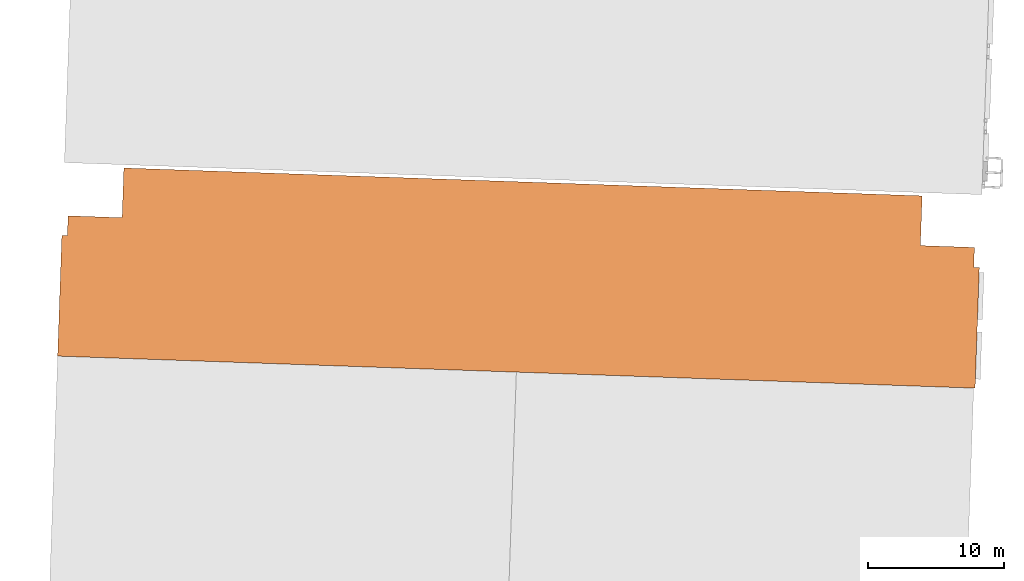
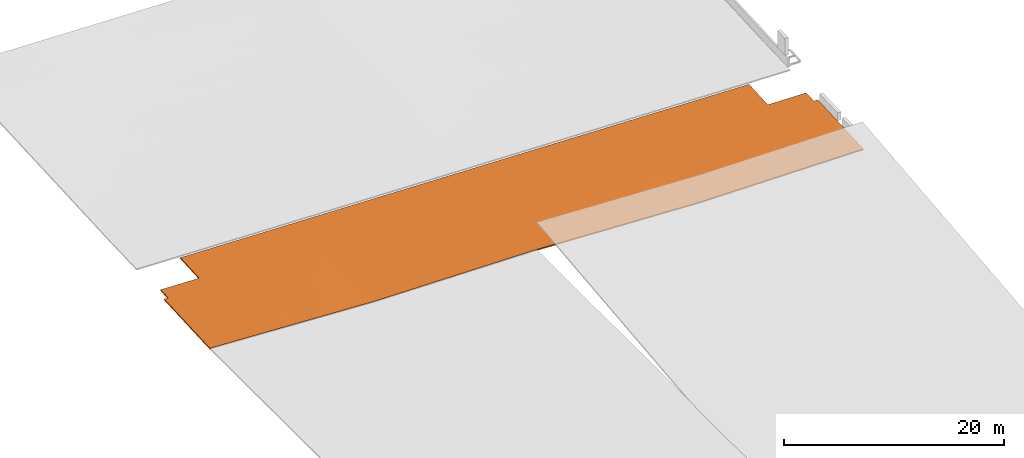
# One storey, part 4 of 4: 1 proxy.
"""IFC2X3 building model written with IfcOpenShell, lengths in feet."""

from ifc_helpers import new_model, entity, si_unit, converted_unit, derived_unit, direction, frame, origin, place, context, subcontext, project, spatial, faceted_brep, source, transform, mapped, material, type_object, type_shapes, element, save


model = new_model("IFC2X3")

# Units and contexts
model_context = context("Model", 3, precision=0.0001, world=origin(), true_north=direction((0.999390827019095, 0.0348994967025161)))
body_context = subcontext(model_context, "Body", "Model", "MODEL_VIEW")
ifc_project = project(units=[converted_unit("LENGTHUNIT", "FOOT", entity("IfcRatioMeasure", 0.3048), si_unit("LENGTHUNIT", "METRE"), dimensions=[1, 0, 0, 0, 0, 0, 0]), converted_unit("AREAUNIT", "SQUARE FOOT", entity("IfcRatioMeasure", 0.09290304), si_unit("AREAUNIT", "SQUARE_METRE"), dimensions=[2, 0, 0, 0, 0, 0, 0]), converted_unit("VOLUMEUNIT", "CUBIC FOOT", entity("IfcRatioMeasure", 0.028316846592), si_unit("VOLUMEUNIT", "CUBIC_METRE"), dimensions=[3, 0, 0, 0, 0, 0, 0]), converted_unit("PLANEANGLEUNIT", "DEGREE", entity("IfcRatioMeasure", 0.0174532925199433), si_unit("PLANEANGLEUNIT", "RADIAN"), dimensions=[0, 0, 0, 0, 0, 0, 0]), si_unit("MASSUNIT", "GRAM", prefix="KILO"), si_unit("TIMEUNIT", "SECOND"), si_unit("FREQUENCYUNIT", "HERTZ"), si_unit("THERMODYNAMICTEMPERATUREUNIT", "DEGREE_CELSIUS"), derived_unit("THERMALTRANSMITTANCEUNIT", [(si_unit("MASSUNIT", "GRAM", prefix="KILO"), 1), (si_unit("THERMODYNAMICTEMPERATUREUNIT", "KELVIN"), -1), (si_unit("TIMEUNIT", "SECOND"), -3)]), derived_unit("VOLUMETRICFLOWRATEUNIT", [(si_unit("LENGTHUNIT", "METRE"), 3), (si_unit("TIMEUNIT", "SECOND"), -1)]), si_unit("ELECTRICCURRENTUNIT", "AMPERE"), si_unit("ELECTRICVOLTAGEUNIT", "VOLT"), si_unit("POWERUNIT", "WATT"), si_unit("FORCEUNIT", "NEWTON"), si_unit("ILLUMINANCEUNIT", "LUX"), si_unit("LUMINOUSFLUXUNIT", "LUMEN"), si_unit("LUMINOUSINTENSITYUNIT", "CANDELA"), derived_unit("USERDEFINED", [(si_unit("MASSUNIT", "GRAM", prefix="KILO"), -1), (si_unit("LENGTHUNIT", "METRE"), -2), (si_unit("TIMEUNIT", "SECOND"), 3), (si_unit("LUMINOUSFLUXUNIT", "LUMEN"), 1)]), derived_unit("LINEARVELOCITYUNIT", [(si_unit("LENGTHUNIT", "METRE"), 1), (si_unit("TIMEUNIT", "SECOND"), -1)]), si_unit("PRESSUREUNIT", "PASCAL"), derived_unit("USERDEFINED", [(si_unit("LENGTHUNIT", "METRE"), -2), (si_unit("MASSUNIT", "GRAM", prefix="KILO"), 1), (si_unit("TIMEUNIT", "SECOND"), -2)])], contexts=[model_context])

# Site, building, storey
site_placement = place(None, frame((892.518771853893, 322.38689265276, 0.00393700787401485), z_axis=(0.0, 0.0, 1.0), x_axis=(0.0348994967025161, 0.999390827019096, 0.0)))
site = spatial("IfcSite", under=ifc_project, at=site_placement, Name="Default", CompositionType="ELEMENT")
building_placement = place(site_placement, origin())
building = spatial("IfcBuilding", under=site, at=building_placement, CompositionType="ELEMENT")
storey_placement = place(building_placement, frame((0.0, 0.0, 577.0)))
storey = spatial("IfcBuildingStorey", under=building, at=storey_placement, Name="Existing Garage - 3rd Level", CompositionType="ELEMENT", Elevation=577.0)

# Proxy
ifc_material = material(Name="Conc Slab")
building_element_proxy_type = type_object("IfcBuildingElementProxyType", Name="URMC Exist Garage A15-G18 2nd Floor", PredefinedType="NOTDEFINED", material=ifc_material)
shared_shape = source(origin(), body_context, "Body", "Brep", [
    faceted_brep([(45.7500000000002, -165.0, -0.416666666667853), (45.0, -165.0, -0.416666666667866), (42.0623199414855, -165.0, -0.493046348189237), (37.5, -165.0, -0.611666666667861), (32.9376800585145, -165.0, -0.730286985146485), (30.0, -165.0, -0.806666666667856), (21.6913902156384, -165.0, -1.02269052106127), (13.3827804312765, -165.0, -1.23871437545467), (0.0, -165.0, -1.58666666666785), (0.0, -165.0, -1.17000000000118), (13.3827804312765, -165.0, -0.822047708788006), (21.6913902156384, -165.0, -0.606023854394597), (30.0, -165.0, -0.390000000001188), (37.4999999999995, -165.0, -0.195000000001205), (45.0, -165.0, 0.0), (45.7500000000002, -165.0, 0.0), (29.0, -220.0, -0.416666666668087), (29.0, -220.0, 0.0), (20.6913898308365, -220.0, 0.0), (12.3827796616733, -220.0, 0.0), (0.0, -220.0, 0.0), (0.0, -220.0, -0.416666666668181), (12.3827796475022, -220.0, -0.416666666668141), (20.691389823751, -220.0, -0.416666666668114), (30.0, -208.845032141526, -0.0790988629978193), (16.5370843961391, -203.597118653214, -0.220703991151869), (29.2499999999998, -219.0, -0.00744545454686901), (29.4999999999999, -219.0, -0.00732727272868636), (29.75, -219.0, -0.0072090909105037), (30.0, -219.0, -0.00709090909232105), (30.4212962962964, -219.0, -0.0068917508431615), (30.8425925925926, -219.0, -0.00669259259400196), (30.0, -205.5, -0.102818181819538), (29.0, -219.0, -0.00756363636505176), (29.0, -219.75, -0.00189090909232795), (29.0, -219.5, -0.00378181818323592), (29.0, -219.25, -0.00567272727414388), (20.7948761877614, -191.005404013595, -0.331768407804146), (30.0, -198.690064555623, -0.151106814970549), (10.0378252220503, -178.448943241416, -0.686738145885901), (20.1935517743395, -178.613535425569, -0.485326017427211), (0.0, -209.845032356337, -0.21602385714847), (0.0, -199.690064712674, -0.432047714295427), (9.71466791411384, -192.499997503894, -0.458709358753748), (0.0, -185.309935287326, -0.737952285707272), (7.77446293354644, -204.767549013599, -0.268053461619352), (0.0, -175.154967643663, -0.953976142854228), (30.0, -192.0, -0.198545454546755), (30.0, -181.845032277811, -0.270553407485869), (30.0, -178.5, -0.294272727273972), (33.7916666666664, -211.777777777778, -0.0435653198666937), (33.7916666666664, -213.222222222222, -0.0359119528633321), (31.2638888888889, -219.0, -0.00649343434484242), (31.6851851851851, -219.0, -0.00629427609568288), (32.1064814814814, -219.0, -0.00609511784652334), (32.5277777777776, -219.0, -0.0058959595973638), (32.9490740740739, -219.0, -0.00569680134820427), (33.3703703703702, -219.0, -0.00549764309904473), (33.7916666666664, -219.0, -0.0052984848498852), (33.7916666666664, -217.555555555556, -0.0129518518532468), (33.7916666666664, -216.111111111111, -0.0206052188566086), (33.7916666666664, -214.666666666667, -0.0282585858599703), (38.4839962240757, -175.781774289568, -0.136205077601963), (34.4211543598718, -180.619101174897, -0.196940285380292), (38.1504626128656, -186.798467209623, -0.107505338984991), (45.0, -177.276017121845, 0.0), (34.313381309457, -191.629013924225, -0.143326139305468), (38.1504626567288, -196.459562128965, -0.0762230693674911), (33.7916666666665, -206.0, -0.0741787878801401), (35.0370370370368, -206.0, -0.0659367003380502), (33.7916666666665, -207.444444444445, -0.0665254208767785), (33.7916666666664, -210.333333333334, -0.0512186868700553), (33.7916666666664, -208.888888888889, -0.058872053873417), (45.0, -191.638008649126, 0.0), (43.7546296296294, -206.0, -0.00824208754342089), (45.0, -206.0, 0.0), (42.5092592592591, -206.0, -0.0164841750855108), (41.2638888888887, -206.0, -0.0247262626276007), (36.2824074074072, -206.0, -0.0576946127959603), (37.5277777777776, -206.0, -0.0494525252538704), (38.7731481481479, -206.0, -0.0412104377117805), (40.0185185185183, -206.0, -0.0329683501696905), (45.7500000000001, -206.0, 0.0), (45.7500000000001, -206.0, -0.416666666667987), (45.0, -206.0, -0.416666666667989), (45.0, -191.638008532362, -0.416666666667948), (45.0, -177.276017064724, -0.416666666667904), (33.7916666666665, -207.444444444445, -0.483192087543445), (33.7916666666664, -208.888888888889, -0.475538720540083), (33.7916666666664, -210.333333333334, -0.467885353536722), (33.7916666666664, -211.777777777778, -0.46023198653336), (30.0, -205.499999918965, -0.519484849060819), (33.7916666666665, -206.0, -0.490845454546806), (37.0103240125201, -176.044531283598, -0.582683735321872), (33.8430920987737, -184.011589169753, -0.606475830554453), (30.0, -178.500000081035, -0.710939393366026), (34.7918977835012, -194.653484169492, -0.538980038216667), (30.0, -198.690064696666, -0.567773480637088), (30.0, -192.0, -0.615212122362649), (40.0185185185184, -206.0, -0.449635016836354), (38.773148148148, -206.0, -0.457877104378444), (37.5277777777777, -206.0, -0.466119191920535), (36.2824074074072, -206.0, -0.474361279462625), (39.3958345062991, -196.218239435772, -0.479670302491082), (42.5092592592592, -206.0, -0.433150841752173), (41.2638888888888, -206.0, -0.441392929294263), (38.1504606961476, -186.798464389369, -0.524172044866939), (30.0, -181.845032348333, -0.687220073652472), (30.8425925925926, -219.0, -0.423359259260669), (43.7546296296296, -206.0, -0.424908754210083), (40.93720002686, -179.294944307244, -0.494844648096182), (35.0370370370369, -206.0, -0.482603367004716), (33.7916666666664, -214.666666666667, -0.444925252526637), (33.7916666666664, -216.111111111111, -0.437271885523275), (33.7916666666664, -217.555555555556, -0.429618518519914), (33.7916666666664, -219.0, -0.421965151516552), (33.3703703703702, -219.0, -0.422164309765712), (32.9490740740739, -219.0, -0.422363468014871), (32.5277777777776, -219.0, -0.422562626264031), (32.1064814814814, -219.0, -0.42276178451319), (31.6851851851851, -219.0, -0.42296094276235), (31.2638888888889, -219.0, -0.423160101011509), (33.7916666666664, -213.222222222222, -0.452578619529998), (30.4212962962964, -219.0, -0.423558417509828), (30.0, -219.0, -0.423757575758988), (29.75, -219.0, -0.423875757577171), (29.4999999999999, -219.0, -0.423993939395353), (29.2499999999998, -219.0, -0.424112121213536), (29.0, -219.0, -0.424230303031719), (30.0, -208.845032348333, -0.495765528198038), (0.0, -185.309935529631, -1.15461894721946), (9.71466872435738, -192.499996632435, -0.875376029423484), (0.0, -199.690064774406, -0.848714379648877), (10.0378253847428, -178.44894299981, -1.10340481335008), (29.0, -219.5, -0.420448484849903), (29.0, -219.75, -0.418557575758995), (29.0, -219.25, -0.422339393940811), (16.5370867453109, -203.597117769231, -0.637370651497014), (7.77446308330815, -204.767549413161, -0.684720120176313), (0.0, -209.845032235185, -0.632690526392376), (20.7948767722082, -191.005405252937, -0.748435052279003), (20.1935519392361, -178.613536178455, -0.901992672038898), (0.0, -175.154967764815, -1.37064280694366)], [[[0, 1, 2, 3, 4, 5, 6, 7, 8, 9, 10, 11, 12, 13, 14, 15]], [[16, 17, 18, 19, 20, 21, 22, 23]], [[18, 24, 25]], [[26, 27, 28, 29, 30, 31, 32, 24, 33]], [[18, 17, 34, 35, 36, 33]], [[37, 25, 38]], [[25, 19, 18]], [[39, 37, 40]], [[19, 41, 20]], [[42, 43, 44]], [[45, 43, 42]], [[33, 24, 18]], [[45, 42, 41]], [[25, 24, 32, 38]], [[39, 40, 10]], [[43, 39, 44]], [[39, 9, 46, 44]], [[37, 43, 25]], [[39, 43, 37]], [[37, 38, 47, 48]], [[12, 11, 10, 40]], [[40, 37, 48]], [[40, 48, 49, 12]], [[45, 19, 25]], [[19, 45, 41]], [[43, 45, 25]], [[9, 39, 10]], [[31, 50, 32]], [[51, 50, 31, 52, 53, 54, 55, 56, 57, 58, 59, 60, 61]], [[62, 63, 64]], [[64, 65, 62]], [[63, 12, 49, 48, 47]], [[64, 66, 67]], [[68, 66, 47]], [[66, 63, 47]], [[66, 68, 69]], [[70, 68, 32, 50, 71, 72]], [[14, 13, 62]], [[68, 47, 38, 32]], [[67, 73, 64]], [[14, 62, 65]], [[66, 69, 67]], [[74, 75, 73, 76]], [[77, 76, 67, 69, 78, 79, 80, 81]], [[73, 67, 76]], [[63, 66, 64]], [[13, 63, 62]], [[64, 73, 65]], [[12, 63, 13]], [[82, 15, 14, 65, 73, 75]], [[15, 82, 83, 0]], [[0, 83, 84, 85, 86, 1]], [[87, 88, 89, 90, 91, 92]], [[93, 94, 95]], [[96, 91, 97, 98]], [[99, 100, 101, 102, 103, 104, 105]], [[4, 3, 2, 93]], [[85, 103, 106]], [[94, 98, 107, 95]], [[90, 108, 91]], [[4, 93, 95]], [[84, 109, 104, 85]], [[93, 110, 106]], [[98, 94, 96]], [[96, 103, 102]], [[102, 111, 92, 96]], [[2, 86, 110]], [[104, 103, 85]], [[85, 106, 110]], [[103, 96, 106]], [[96, 92, 91]], [[112, 113, 114, 115, 116, 117, 118, 119, 120, 121, 108, 90, 122]], [[91, 108, 123, 124, 125, 126, 127, 128, 129]], [[85, 110, 86]], [[95, 5, 4]], [[94, 93, 106]], [[96, 94, 106]], [[2, 110, 93]], [[86, 2, 1]], [[130, 131, 132]], [[7, 133, 8]], [[128, 23, 129]], [[133, 131, 130]], [[134, 135, 16, 23, 128, 136]], [[137, 129, 23]], [[138, 139, 132]], [[137, 140, 97]], [[137, 97, 91, 129]], [[23, 22, 137]], [[22, 21, 139]], [[140, 137, 131]], [[141, 107, 140]], [[131, 138, 132]], [[141, 140, 133]], [[133, 130, 142, 8]], [[6, 5, 141, 7]], [[133, 140, 131]], [[140, 107, 98, 97]], [[141, 5, 95, 107]], [[7, 141, 133]], [[138, 131, 137]], [[139, 138, 22]], [[22, 138, 137]], [[84, 83, 82, 75, 74, 76, 77, 81, 80, 79, 78, 69, 68, 92, 111, 102, 101, 100, 99, 105, 104, 109]], [[71, 50, 51, 61, 60, 59, 58, 115, 114, 113, 112, 122, 90, 89, 88, 87, 92, 68, 70, 72]], [[117, 116, 115, 58, 57, 56, 55, 54, 53, 52, 31, 30, 29, 28, 27, 26, 33, 128, 127, 126, 125, 124, 123, 108, 121, 120, 119, 118]], [[134, 136, 128, 33, 36, 35, 34, 17, 16, 135]], [[9, 8, 142, 130, 132, 139, 21, 20, 41, 42, 44, 46]]]),
    faceted_brep([(0.0, -55.0, -1.17000000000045), (0.0, -55.0, -1.58666666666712), (13.3827804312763, -55.0, -1.23871437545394), (21.6913902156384, -55.0, -1.02269052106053), (30.0, -55.0, -0.806666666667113), (37.5000000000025, -55.0, -0.611666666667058), (45.0, -55.0, -0.416666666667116), (45.7500000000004, -55.0, -0.416666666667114), (45.7500000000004, -55.0, 0.0), (45.0, -55.0, 0.0), (42.0623199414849, -55.0, -0.0763796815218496), (37.4999999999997, -55.0, -0.195000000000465), (32.9376800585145, -55.0, -0.313620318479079), (30.0, -55.0, -0.390000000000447), (21.6913902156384, -55.0, -0.60602385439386), (13.3827804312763, -55.0, -0.822047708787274), (0.0, 0.0, 0.0), (12.3827796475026, 0.0, 0.0), (20.6913898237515, 0.0, 0.0), (29.0, 0.0, 0.0), (29.0, 0.0, -0.416666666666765), (20.6913898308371, 0.0, -0.416666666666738), (12.3827796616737, 0.0, -0.416666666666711), (0.0, 0.0, -0.416666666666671), (45.7500000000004, -14.0, -0.416666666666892), (45.0, -42.7239827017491, -0.41666666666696), (45.0, -28.3619913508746, -0.416666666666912), (45.0, -14.0, -0.416666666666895), (45.7500000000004, -14.0, 0.0), (45.0, -14.0, 0.0), (45.0, -28.3619914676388, 0.0), (45.0, -42.7239829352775, 0.0), (33.7916666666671, -12.5555555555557, -0.0665254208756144), (33.7916666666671, -11.1111111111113, -0.0588720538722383), (33.7916666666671, -9.66666666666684, -0.0512186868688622), (33.7916666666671, -8.22222222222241, -0.0435653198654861), (30.0, -14.5000000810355, -0.102818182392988), (33.7916666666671, -14.0, -0.0741787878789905), (37.0103240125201, -43.9554687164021, -0.166017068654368), (33.843092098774, -35.9884108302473, -0.189809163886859), (30.0, -41.499999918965, -0.294272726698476), (34.7918977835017, -25.3465158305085, -0.122313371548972), (30.0, -21.3099353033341, -0.15110681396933), (30.0, -28.0000001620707, -0.198545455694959), (40.0185185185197, -14.0, -0.0329683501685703), (38.7731481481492, -14.0, -0.0412104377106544), (37.5277777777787, -14.0, -0.0494525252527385), (36.2824074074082, -14.0, -0.0576946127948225), (39.3958345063, -23.7817605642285, -0.0630036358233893), (42.5092592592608, -14.0, -0.0164841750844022), (41.2638888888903, -14.0, -0.0247262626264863), (38.1504606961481, -33.2015356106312, -0.107505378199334), (30.0, -38.1549676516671, -0.270553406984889), (30.8425925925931, -1.0, -0.00669259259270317), (43.7546296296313, -14.0, -0.00824208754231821), (40.9372000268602, -40.7050556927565, -0.0781779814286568), (35.0370370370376, -14.0, -0.0659367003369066), (33.7916666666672, -5.33333333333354, -0.0282585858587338), (33.7916666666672, -3.88888888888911, -0.0206052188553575), (33.7916666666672, -2.44444444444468, -0.0129518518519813), (33.7916666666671, -1.0, -0.00529848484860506), (33.3703703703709, -1.0, -0.00549764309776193), (32.9490740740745, -1.0, -0.00569680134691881), (32.5277777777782, -1.0, -0.00589595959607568), (32.1064814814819, -1.0, -0.00609511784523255), (31.6851851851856, -1.0, -0.00629427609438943), (31.2638888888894, -1.0, -0.0064934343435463), (33.7916666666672, -6.77777777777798, -0.0359119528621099), (30.4212962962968, -1.0, -0.00689175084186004), (30.0, -1.0, -0.00709090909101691), (29.7500000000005, -1.0, -0.0072090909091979), (29.5000000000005, -1.0, -0.00732727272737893), (29.2500000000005, -1.0, -0.00744545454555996), (29.0, -1.0, -0.00756363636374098), (30.0, -11.1549676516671, -0.0790988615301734), (0.0, -34.6900644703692, -0.737952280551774), (9.71466872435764, -27.5000033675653, -0.458709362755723), (0.0, -20.3099352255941, -0.432047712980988), (10.0378253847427, -41.5510570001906, -0.686738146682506), (29.0, -0.50000000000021, -0.00378181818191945), (29.0, -0.250000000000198, -0.00189090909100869), (29.0, -0.750000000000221, -0.00567272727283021), (16.5370867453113, -16.4028822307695, -0.220703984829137), (7.77446308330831, -15.2324505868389, -0.268053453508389), (0.0, -10.1549677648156, -0.216023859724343), (20.7948767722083, -28.9945947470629, -0.331768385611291), (20.1935519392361, -41.3864638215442, -0.485326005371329), (0.0, -44.8450322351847, -0.953976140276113), (0.0, -10.1549676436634, -0.632690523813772), (0.0, -20.3099352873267, -0.848714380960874), (0.0, -34.6900647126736, -1.15461895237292), (0.0, -44.8450323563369, -1.37064280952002), (30.0, -11.1549678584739, -0.495765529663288), (16.5370843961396, -16.4028813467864, -0.637370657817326), (29.2500000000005, -1.0, -0.424112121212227), (29.5000000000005, -1.0, -0.423993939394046), (29.7500000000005, -1.0, -0.423875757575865), (30.0, -1.0, -0.423757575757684), (30.4212962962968, -1.0, -0.423558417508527), (30.8425925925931, -1.0, -0.42335925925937), (30.0, -14.5000000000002, -0.519484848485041), (29.0, -1.0, -0.424230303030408), (29.0, -0.250000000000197, -0.418557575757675), (29.0, -0.500000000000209, -0.420448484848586), (29.0, -0.750000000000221, -0.422339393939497), (20.7948761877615, -28.9945959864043, -0.748435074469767), (30.0, -21.3099354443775, -0.567773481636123), (10.0378252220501, -41.5510567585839, -1.10340481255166), (20.1935517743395, -41.3864645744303, -0.901992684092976), (9.7146679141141, -27.5000024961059, -0.87537602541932), (7.77446293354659, -15.2324509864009, -0.684720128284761), (30.0, -28.0, -0.615212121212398), (30.0, -38.1549677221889, -0.687220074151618), (30.0, -41.5000000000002, -0.710939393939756), (33.7916666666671, -8.22222222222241, -0.460231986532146), (33.7916666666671, -6.77777777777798, -0.452578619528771), (31.2638888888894, -1.0, -0.423160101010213), (31.6851851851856, -1.0, -0.422960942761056), (32.1064814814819, -1.0, -0.422761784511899), (32.5277777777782, -1.0, -0.422562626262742), (32.9490740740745, -1.0, -0.422363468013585), (33.3703703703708, -1.0, -0.422164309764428), (33.7916666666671, -1.0, -0.421965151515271), (33.7916666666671, -2.44444444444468, -0.429618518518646), (33.7916666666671, -3.88888888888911, -0.437271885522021), (33.7916666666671, -5.33333333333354, -0.444925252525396), (38.4839962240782, -44.2182257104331, -0.552871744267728), (34.4211543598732, -39.3808988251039, -0.613606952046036), (38.1504626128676, -33.2015327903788, -0.524172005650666), (34.3133813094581, -28.3709860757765, -0.559992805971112), (38.1504626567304, -23.5404378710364, -0.492889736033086), (33.7916666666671, -14.0, -0.490845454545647), (35.0370370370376, -14.0, -0.48260336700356), (33.7916666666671, -12.5555555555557, -0.483192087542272), (33.7916666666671, -9.66666666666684, -0.467885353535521), (33.7916666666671, -11.1111111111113, -0.475538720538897), (43.754629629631, -14.0, -0.424908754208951), (42.5092592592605, -14.0, -0.433150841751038), (41.2638888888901, -14.0, -0.441392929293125), (36.2824074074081, -14.0, -0.474361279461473), (37.5277777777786, -14.0, -0.466119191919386), (38.7731481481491, -14.0, -0.457877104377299), (40.0185185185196, -14.0, -0.449635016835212)], [[[0, 1, 2, 3, 4, 5, 6, 7, 8, 9, 10, 11, 12, 13, 14, 15]], [[16, 17, 18, 19, 20, 21, 22, 23]], [[24, 7, 6, 25, 26, 27]], [[7, 24, 28, 8]], [[8, 28, 29, 30, 31, 9]], [[32, 33, 34, 35, 36, 37]], [[38, 39, 40]], [[41, 36, 42, 43]], [[44, 45, 46, 47, 48, 49, 50]], [[12, 11, 10, 38]], [[30, 48, 51]], [[39, 43, 52, 40]], [[35, 53, 36]], [[12, 38, 40]], [[29, 54, 49, 30]], [[38, 55, 51]], [[43, 39, 41]], [[41, 48, 47]], [[47, 56, 37, 41]], [[10, 31, 55]], [[49, 48, 30]], [[30, 51, 55]], [[48, 41, 51]], [[41, 37, 36]], [[57, 58, 59, 60, 61, 62, 63, 64, 65, 66, 53, 35, 67]], [[36, 53, 68, 69, 70, 71, 72, 73, 74]], [[30, 55, 31]], [[40, 13, 12]], [[39, 38, 51]], [[41, 39, 51]], [[10, 55, 38]], [[31, 10, 9]], [[75, 76, 77]], [[15, 78, 0]], [[73, 18, 74]], [[78, 76, 75]], [[79, 80, 19, 18, 73, 81]], [[82, 74, 18]], [[83, 84, 77]], [[82, 85, 42]], [[82, 42, 36, 74]], [[18, 17, 82]], [[17, 16, 84]], [[85, 82, 76]], [[86, 52, 85]], [[76, 83, 77]], [[86, 85, 78]], [[78, 75, 87, 0]], [[14, 13, 86, 15]], [[78, 85, 76]], [[85, 52, 43, 42]], [[86, 13, 40, 52]], [[15, 86, 78]], [[83, 76, 82]], [[84, 83, 17]], [[17, 83, 82]], [[23, 88, 89, 90, 91, 1, 0, 87, 75, 77, 84, 16]], [[21, 92, 93]], [[94, 95, 96, 97, 98, 99, 100, 92, 101]], [[21, 20, 102, 103, 104, 101]], [[105, 93, 106]], [[93, 22, 21]], [[107, 105, 108]], [[22, 88, 23]], [[89, 109, 90]], [[110, 109, 89]], [[101, 92, 21]], [[110, 89, 88]], [[93, 92, 100, 106]], [[107, 108, 2]], [[109, 107, 90]], [[107, 1, 91, 90]], [[105, 109, 93]], [[107, 109, 105]], [[105, 106, 111, 112]], [[4, 3, 2, 108]], [[108, 105, 112]], [[108, 112, 113, 4]], [[110, 22, 93]], [[22, 110, 88]], [[109, 110, 93]], [[1, 107, 2]], [[99, 114, 100]], [[115, 114, 99, 116, 117, 118, 119, 120, 121, 122, 123, 124, 125]], [[126, 127, 128]], [[128, 25, 126]], [[127, 4, 113, 112, 111]], [[128, 129, 130]], [[131, 129, 111]], [[129, 127, 111]], [[129, 131, 132]], [[133, 131, 100, 114, 134, 135]], [[6, 5, 126]], [[131, 111, 106, 100]], [[130, 26, 128]], [[6, 126, 25]], [[129, 132, 130]], [[136, 27, 26, 137]], [[138, 137, 130, 132, 139, 140, 141, 142]], [[26, 130, 137]], [[127, 129, 128]], [[5, 127, 126]], [[128, 26, 25]], [[4, 127, 5]], [[44, 50, 49, 54, 29, 28, 24, 27, 136, 137, 138, 142, 141, 140, 139, 132, 131, 37, 56, 47, 46, 45]], [[59, 58, 57, 67, 35, 34, 33, 32, 37, 131, 133, 135, 134, 114, 115, 125, 124, 123, 122, 60]], [[102, 20, 19, 80, 79, 81, 73, 101, 104, 103]], [[53, 66, 65, 64, 63, 62, 61, 60, 122, 121, 120, 119, 118, 117, 116, 99, 98, 97, 96, 95, 94, 101, 73, 72, 71, 70, 69, 68]]]),
    faceted_brep([(29.0, -220.0, 0.0), (0.0, -220.0, 0.0), (0.0, -220.333333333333, 0.0), (29.0, -220.333333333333, 0.0), (29.0, -220.0, -0.416666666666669), (29.0, -220.333333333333, -0.416666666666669), (0.0, -220.333333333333, -0.416666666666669), (0.0, -220.0, -0.416666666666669)], [[[0, 1, 2, 3]], [[4, 5, 6, 7]], [[0, 3, 5, 4]], [[3, 2, 6, 5]], [[2, 1, 7, 6]], [[1, 0, 4, 7]]]),
    faceted_brep([(0.0, -165.0, -1.17000000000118), (0.0, -165.0, -1.58666666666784), (9.46064134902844, -165.0, -1.34068999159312), (18.9212826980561, -165.0, -1.0947133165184), (30.0, -165.0, -0.806666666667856), (37.1659738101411, -165.0, -0.620351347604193), (41.0829869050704, -165.0, -0.51850900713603), (45.0, -165.0, -0.416666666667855), (45.7500000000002, -165.0, -0.416666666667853), (45.7500000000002, -165.0, 0.0), (45.0, -165.0, 0.0), (37.8340261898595, -165.0, -0.186315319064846), (33.9170130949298, -165.0, -0.288157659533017), (30.0, -165.0, -0.390000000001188), (20.5393586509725, -165.0, -0.635976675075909), (11.0787173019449, -165.0, -0.881953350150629), (30.0, -110.0, -0.526666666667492), (18.921282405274, -110.0, -0.607910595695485), (9.46064120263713, -110.0, -0.677288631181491), (0.0, -110.0, -0.746666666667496), (0.0, -110.0, -0.330000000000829), (11.0787175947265, -110.0, -0.248756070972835), (20.5393587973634, -110.0, -0.17937803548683), (30.0, -110.0, -0.110000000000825), (37.16597356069, -110.0, -0.0574495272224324), (41.0829867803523, -110.0, -0.0287247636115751), (45.0, -110.0, 0.0), (45.7500000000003, -110.0, 0.0), (45.7500000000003, -110.0, -0.41666666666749), (45.0, -110.0, -0.41666666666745), (37.8340264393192, -110.0, -0.469217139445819), (33.9170132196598, -110.0, -0.497941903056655), (0.0, -137.5, -1.16666666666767), (30.0, -130.310981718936, -0.630068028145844), (15.0000015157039, -137.500002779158, -0.916666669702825), (30.0, -144.689018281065, -0.703265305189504), (30.0, -136.275236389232, -0.660431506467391), (30.0, -150.637618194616, -0.733549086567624), (35.238920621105, -129.41370506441, -0.552562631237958), (40.1294691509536, -126.164082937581, -0.479103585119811), (45.0, -124.36238162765, -0.416666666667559), (45.0, -138.724762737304, -0.416666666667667), (39.1244807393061, -144.011721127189, -0.527577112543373), (33.9855774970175, -149.287335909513, -0.644304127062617), (45.0, -136.275236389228, 0.0), (45.0, -150.637618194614, 0.0), (39.7610793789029, -129.413705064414, -0.0729374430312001), (34.8705308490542, -126.164082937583, -0.129852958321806), (30.0, -124.362381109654, -0.18311757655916), (30.0, -137.5, -0.250000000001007), (30.0, -138.724762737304, -0.256235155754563), (35.8755192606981, -144.011721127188, -0.172240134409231), (41.0144225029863, -149.287335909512, -0.0823707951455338), (0.0, -130.310981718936, -0.640204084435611), (14.9999984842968, -137.500002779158, -0.500000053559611), (0.0, -144.689018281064, -0.859795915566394)], [[[0, 1, 2, 3, 4, 5, 6, 7, 8, 9, 10, 11, 12, 13, 14, 15]], [[16, 17, 18, 19, 20, 21, 22, 23, 24, 25, 26, 27, 28, 29, 30, 31]], [[2, 1, 32]], [[17, 16, 33]], [[34, 35, 3]], [[34, 17, 33]], [[34, 33, 36, 35]], [[32, 18, 34]], [[3, 35, 37, 4]], [[2, 32, 34]], [[34, 3, 2]], [[34, 18, 17]], [[32, 19, 18]], [[38, 16, 31, 30]], [[39, 29, 40, 41]], [[5, 42, 6]], [[5, 43, 42]], [[43, 4, 37, 35, 36]], [[38, 39, 42]], [[41, 6, 42]], [[41, 7, 6]], [[42, 43, 38]], [[4, 43, 5]], [[38, 43, 36]], [[39, 38, 30]], [[29, 39, 30]], [[41, 42, 39]], [[38, 36, 33, 16]], [[8, 7, 41, 40, 29, 28]], [[8, 28, 27, 9]], [[9, 27, 26, 44, 45, 10]], [[46, 26, 25, 24]], [[47, 23, 48, 49, 50]], [[11, 51, 12]], [[11, 52, 51]], [[52, 10, 45, 44]], [[46, 47, 51]], [[50, 12, 51]], [[50, 49, 14, 13, 12]], [[51, 52, 46]], [[10, 52, 11]], [[46, 52, 44]], [[47, 46, 24]], [[23, 47, 24]], [[50, 51, 47]], [[26, 46, 44]], [[21, 20, 53]], [[54, 55, 15]], [[54, 21, 53]], [[55, 54, 53]], [[49, 22, 54]], [[55, 0, 15]], [[14, 49, 54]], [[54, 15, 14]], [[54, 22, 21]], [[22, 49, 48, 23]], [[19, 32, 1, 0, 55, 53, 20]]]),
    faceted_brep([(29.0, 0.0, 0.0), (29.0, 0.3333333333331, 0.0), (0.0, 0.333333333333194, 0.0), (0.0, 0.0, 0.0), (29.0, 0.0, -0.416666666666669), (0.0, 0.0, -0.416666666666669), (0.0, 0.333333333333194, -0.416666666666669), (29.0, 0.3333333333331, -0.416666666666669)], [[[0, 1, 2, 3]], [[4, 5, 6, 7]], [[1, 0, 4, 7]], [[2, 1, 7, 6]], [[3, 2, 6, 5]], [[0, 3, 5, 4]]]),
    faceted_brep([(30.0, -55.0, -0.806666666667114), (20.5393586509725, -55.0, -1.05264334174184), (11.0787173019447, -55.0, -1.29862001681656), (0.0, -55.0, -1.58666666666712), (0.0, -55.0, -1.17000000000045), (9.46064134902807, -55.0, -0.924023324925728), (18.9212826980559, -55.0, -0.678046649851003), (30.0, -55.0, -0.390000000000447), (37.1659738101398, -55.0, -0.203684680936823), (41.0829869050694, -55.0, -0.101842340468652), (45.0, -55.0, 0.0), (45.7500000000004, -55.0, 0.0), (45.7500000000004, -55.0, -0.416666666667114), (45.0, -55.0, -0.416666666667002), (37.8340261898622, -55.0, -0.602981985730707), (33.9170130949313, -55.0, -0.70482432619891), (0.0, -110.0, -0.330000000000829), (0.0, -110.0, -0.746666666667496), (11.0787175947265, -110.0, -0.665422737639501), (20.5393587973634, -110.0, -0.596044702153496), (30.0, -110.0, -0.526666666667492), (37.1659735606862, -110.0, -0.474116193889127), (41.082986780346, -110.0, -0.445391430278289), (45.0, -110.0, -0.416666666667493), (45.7500000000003, -110.0, -0.41666666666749), (45.7500000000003, -110.0, 0.0), (45.0, -110.0, 0.0), (37.8340264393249, -110.0, -0.0525504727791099), (33.9170132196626, -110.0, -0.0812752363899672), (30.0, -110.0, -0.110000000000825), (18.921282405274, -110.0, -0.191243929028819), (9.46064120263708, -110.0, -0.260621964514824), (45.0, -81.2752372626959, 0.0), (45.0, -95.6376188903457, 0.0), (45.0, -83.7247636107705, -0.416666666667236), (45.0, -69.3623818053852, -0.416666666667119), (39.7610793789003, -90.5862949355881, -0.4896041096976), (34.8705308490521, -93.835917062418, -0.546519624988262), (30.0, -95.6376183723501, -0.599784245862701), (30.0, -82.5, -0.666666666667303), (30.0, -81.2752372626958, -0.672901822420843), (35.875519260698, -75.9882788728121, -0.588906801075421), (41.0144225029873, -70.7126640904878, -0.499037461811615), (0.0, -89.6890182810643, -1.05687075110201), (14.9999984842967, -82.4999972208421, -0.916666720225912), (0.0, -75.3109817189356, -1.2764625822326), (0.0, -82.4999999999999, -0.750000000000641), (30.0, -89.6890182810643, -0.213401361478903), (15.0000015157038, -82.4999972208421, -0.500000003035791), (30.0, -75.3109817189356, -0.286598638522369), (30.0, -83.724763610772, -0.24376483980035), (30.0, -69.362381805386, -0.316882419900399), (35.2389206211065, -90.5862949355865, -0.135895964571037), (40.1294691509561, -93.8359170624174, -0.0624369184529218), (39.1244807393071, -75.9882788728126, -0.110910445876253), (33.9855774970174, -70.7126640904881, -0.227637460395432)], [[[0, 1, 2, 3, 4, 5, 6, 7, 8, 9, 10, 11, 12, 13, 14, 15]], [[16, 17, 18, 19, 20, 21, 22, 23, 24, 25, 26, 27, 28, 29, 30, 31]], [[25, 11, 10, 32, 33, 26]], [[11, 25, 24, 12]], [[12, 24, 23, 34, 35, 13]], [[36, 23, 22, 21]], [[37, 20, 38, 39, 40]], [[14, 41, 15]], [[14, 42, 41]], [[42, 13, 35, 34]], [[36, 37, 41]], [[40, 15, 41]], [[40, 39, 1, 0, 15]], [[41, 42, 36]], [[13, 42, 14]], [[36, 42, 34]], [[37, 36, 21]], [[20, 37, 21]], [[40, 41, 37]], [[23, 36, 34]], [[18, 17, 43]], [[44, 45, 2]], [[44, 18, 43]], [[45, 44, 43]], [[39, 19, 44]], [[45, 3, 2]], [[1, 39, 44]], [[44, 2, 1]], [[44, 19, 18]], [[19, 39, 38, 20]], [[4, 3, 45, 43, 17, 16, 46]], [[5, 4, 46]], [[30, 29, 47]], [[48, 49, 6]], [[48, 30, 47]], [[48, 47, 50, 49]], [[46, 31, 48]], [[6, 49, 51, 7]], [[5, 46, 48]], [[48, 6, 5]], [[48, 31, 30]], [[46, 16, 31]], [[52, 29, 28, 27]], [[53, 26, 33, 32]], [[8, 54, 9]], [[8, 55, 54]], [[55, 7, 51, 49, 50]], [[52, 53, 54]], [[32, 9, 54]], [[32, 10, 9]], [[54, 55, 52]], [[7, 55, 8]], [[52, 55, 50]], [[53, 52, 27]], [[26, 53, 27]], [[32, 54, 53]], [[52, 50, 47, 29]]]),
])
type_shapes(building_element_proxy_type, [shared_shape])
proxy_placement = place(storey_placement, frame((57.9272542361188, 456.76395347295, 0.0)))
element("IfcBuildingElementProxy", 1, at=proxy_placement, inside=storey, type_object=building_element_proxy_type, material=ifc_material, Name="URMC Exist Garage A15-G18 2nd Floor:URMC Exist Garage A15-G18 2nd Floor", ObjectType="URMC Exist Garage A15-G18 2nd Floor", context=body_context, shape_type="MappedRepresentation", body=[
    mapped(shared_shape, transform((0.0, 0.0, 0.0), scale=1.0)),
])

save(model, "model.ifc")
